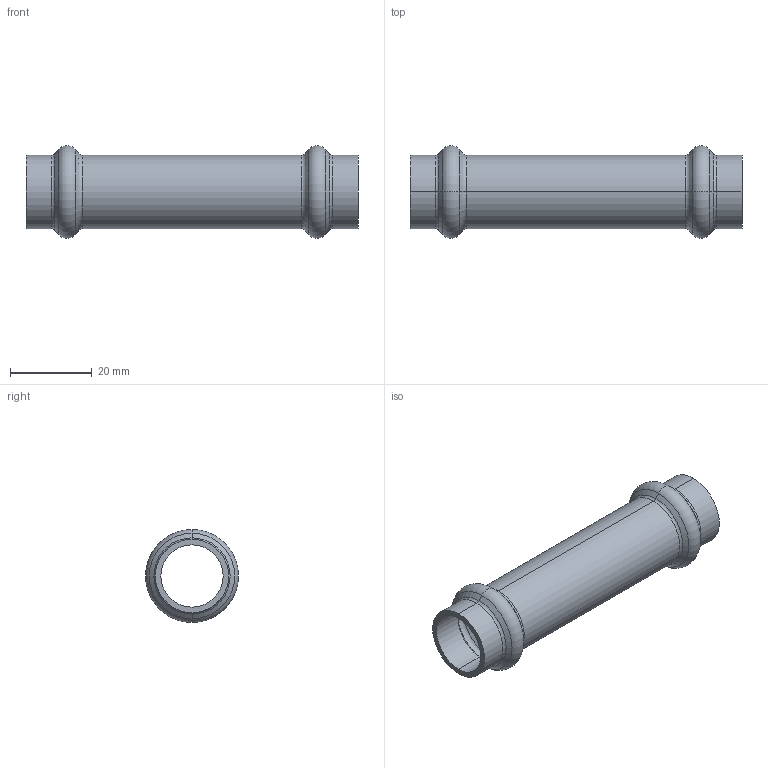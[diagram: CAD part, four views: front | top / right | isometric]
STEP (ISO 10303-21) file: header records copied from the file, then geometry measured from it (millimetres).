
FILE_DESCRIPTION (( 'STEP AP203' ), '1' );
FILE_NAME ('SP5275 15.STEP', '2017-04-24T09:21:40', ( '' ), ( '' ), 'SwSTEP 2.0', 'SolidWorks 2016', '' );
FILE_SCHEMA (( 'CONFIG_CONTROL_DESIGN' ));
Length unit declared in the file: millimetre
Products named in the file (1): SP5275 15
Bounding box: 81 x 22.7 x 22.7 mm (x, y, z)
Volume: 6162 mm3; surface area: 9245 mm2
Topology: 1 solids, 1 shells, 46 faces, 92 edges, 48 vertices
Faces by surface type: torus 16, cone 16, cylinder 12, plane 2
Entity records: 1261 total; most frequent: DIRECTION 250, CARTESIAN_POINT 187, ORIENTED_EDGE 184, AXIS2_PLACEMENT_3D 111, EDGE_CURVE 92, CIRCLE 64, VERTEX_POINT 48, EDGE_LOOP 48
